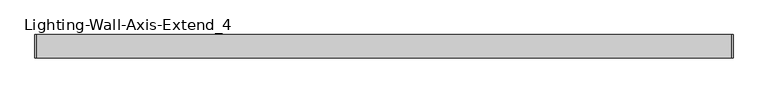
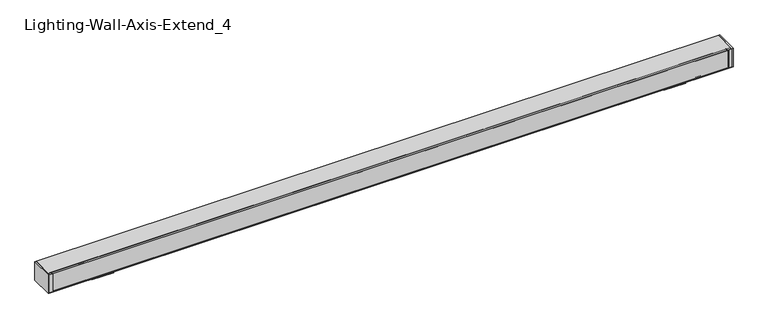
"""IFC4 building model written with IfcOpenShell, lengths in millimetres: light fixture geometry, Lighting-Wall-Axis-Extend_4 : EX4WD-900-80-35-SO-4."""

import ifcopenshell
import ifcopenshell.guid

model = None  # the IFC model being written
_history = None  # IfcOwnerHistory: only IFC2X3 demands one
_inside = {}  # id of a spatial element -> (the spatial element, [elements in it])
_under = {}  # id of a project, library or spatial element -> (it, [spatial elements below it])
_declared = {}  # id of a project -> (the project, [libraries it declares])
_typed = {}  # id of a type object -> (the type object, [elements of that type])
_made_of = {}  # id of a material, layer set ... -> (it, [elements and type objects made of it])


def new_model(schema):
    """Start an empty IFC model of exactly this schema.

    Asked for "IFC4X3", IfcOpenShell would pick the latest addendum, in which some entities
    have other attributes; the version numbers below select the first issue.
    IFC2X3 requires an IfcOwnerHistory on every rooted entity: one is made here for all.
    """
    global model, _history
    if schema == "IFC4X3":
        model = ifcopenshell.file(schema_version=(4, 3, 0, 0))
    else:
        model = ifcopenshell.file(schema=schema)
    _inside.clear()
    _under.clear()
    _declared.clear()
    _typed.clear()
    _made_of.clear()
    _history = None
    if model.schema == "IFC2X3":
        org = make("IfcOrganization", Name="unknown")
        user = make(
            "IfcPersonAndOrganization",
            ThePerson=make("IfcPerson", FamilyName="unknown"),
            TheOrganization=org,
        )
        app = make(
            "IfcApplication",
            ApplicationDeveloper=org,
            Version="unknown",
            ApplicationFullName="unknown",
            ApplicationIdentifier="unknown",
        )
        _history = make(
            "IfcOwnerHistory",
            OwningUser=user,
            OwningApplication=app,
            ChangeAction="ADDED",
            CreationDate=0,
        )
    return model


def make(cls, **values):
    """One entity of the class cls with the attributes given. An attribute that is None is left unset."""
    return model.create_entity(
        cls, **{name: value for name, value in values.items() if value is not None}
    )


def rooted(cls, **values):
    """An entity with a GlobalId (a new one), such as an element, a storey or a relation."""
    return make(cls, GlobalId=ifcopenshell.guid.new(), OwnerHistory=_history, **values)


def si_unit(unit_type, name, prefix=None):
    """IfcSIUnit, for example si_unit("LENGTHUNIT", "METRE", prefix="MILLI")."""
    return make("IfcSIUnit", UnitType=unit_type, Prefix=prefix, Name=name)


def assignment(units):
    """IfcUnitAssignment: the units of a project."""
    return None if units is None else make("IfcUnitAssignment", Units=units)


def point(xyz):
    """IfcCartesianPoint."""
    return None if xyz is None else make("IfcCartesianPoint", Coordinates=xyz)


def direction(xyz):
    """IfcDirection."""
    return None if xyz is None else make("IfcDirection", DirectionRatios=xyz)


def frame(location, z_axis=None, x_axis=None):
    """IfcAxis2Placement3D, a coordinate frame: its origin and axes. An axis left out is left unset."""
    return make(
        "IfcAxis2Placement3D",
        Location=point(location),
        Axis=direction(z_axis),
        RefDirection=direction(x_axis),
    )


def frame_2d(location, x_axis=None):
    """IfcAxis2Placement2D, a coordinate frame in the plane: its origin and x axis."""
    return make(
        "IfcAxis2Placement2D", Location=point(location), RefDirection=direction(x_axis)
    )


def origin():
    """The frame at (0, 0, 0) with its axes left unset."""
    return frame((0.0, 0.0, 0.0))


def place(relative_to, where):
    """IfcLocalPlacement: puts the frame where relative to a parent placement (None: the world)."""
    return make(
        "IfcLocalPlacement", PlacementRelTo=relative_to, RelativePlacement=where
    )


def context(
    kind, dimensions, precision=None, world=None, true_north=None, identifier=None
):
    """IfcGeometricRepresentationContext, for example the 3D "Model" context."""
    return make(
        "IfcGeometricRepresentationContext",
        ContextIdentifier=identifier,
        ContextType=kind,
        CoordinateSpaceDimension=dimensions,
        Precision=precision,
        WorldCoordinateSystem=world,
        TrueNorth=true_north,
    )


def project(units=None, contexts=None):
    """IfcProject with its units and contexts."""
    return rooted(
        "IfcProject",
        Name="project",
        RepresentationContexts=contexts,
        UnitsInContext=assignment(units),
    )


def spatial(cls, under=None, at=None, **own):
    """A site, building, storey or space (cls), placed at a placement, below another one or the project."""
    s = rooted(cls, ObjectPlacement=at, **own)
    if under is not None:
        _under.setdefault(under.id(), (under, []))[1].append(s)
    return s


def polyline(points):
    """IfcPolyline through the points."""
    return make("IfcPolyline", Points=[point(p) for p in points])


def circle_curve(where, radius):
    """IfcCircle in the frame where."""
    return make("IfcCircle", Position=where, Radius=radius)


def trimmed(basis, trim1, trim2, sense, master):
    """IfcTrimmedCurve: the piece of a basis curve between two trims."""
    return make(
        "IfcTrimmedCurve",
        BasisCurve=basis,
        Trim1=trim1,
        Trim2=trim2,
        SenseAgreement=sense,
        MasterRepresentation=master,
    )


def segment(curve, same_sense, transition):
    """IfcCompositeCurveSegment."""
    return make(
        "IfcCompositeCurveSegment",
        Transition=transition,
        SameSense=same_sense,
        ParentCurve=curve,
    )


def composite_curve(segments, self_intersect=None):
    """IfcCompositeCurve: segments joined end to end."""
    return make("IfcCompositeCurve", Segments=segments, SelfIntersect=self_intersect)


def outline(outer, holes=None, kind="AREA"):
    """IfcArbitraryClosedProfileDef: a profile drawn as a closed curve; with holes, ...WithVoids."""
    if holes is None:
        return make("IfcArbitraryClosedProfileDef", ProfileType=kind, OuterCurve=outer)
    return make(
        "IfcArbitraryProfileDefWithVoids",
        ProfileType=kind,
        OuterCurve=outer,
        InnerCurves=holes,
    )


def extrude(swept, where, along, depth):
    """IfcExtrudedAreaSolid: the profile swept, set in the frame where, extruded along a direction by depth."""
    return make(
        "IfcExtrudedAreaSolid",
        SweptArea=swept,
        Position=where,
        ExtrudedDirection=direction(along),
        Depth=depth,
    )


def shape(context_of_items, identifier, shape_type, items):
    """IfcShapeRepresentation: the items that make up one representation, for example the "Body"."""
    return make(
        "IfcShapeRepresentation",
        ContextOfItems=context_of_items,
        RepresentationIdentifier=identifier,
        RepresentationType=shape_type,
        Items=items,
    )


def source(mapping_origin, context_of_items, identifier, shape_type, items):
    """IfcRepresentationMap: a shape defined once, which mapped items show again and again."""
    return make(
        "IfcRepresentationMap",
        MappingOrigin=mapping_origin,
        MappedRepresentation=shape(context_of_items, identifier, shape_type, items),
    )


def transform(
    local_origin,
    x_axis=None,
    y_axis=None,
    z_axis=None,
    scale=None,
    scale2=None,
    scale3=None,
    uniform=True,
):
    """IfcCartesianTransformationOperator3D, or its non-uniform kind. x_axis, y_axis, z_axis: its Axis1, 2, 3."""
    if uniform:
        return make(
            "IfcCartesianTransformationOperator3D",
            Axis1=direction(x_axis),
            Axis2=direction(y_axis),
            LocalOrigin=point(local_origin),
            Scale=scale,
            Axis3=direction(z_axis),
        )
    return make(
        "IfcCartesianTransformationOperator3DnonUniform",
        Axis1=direction(x_axis),
        Axis2=direction(y_axis),
        LocalOrigin=point(local_origin),
        Scale=scale,
        Axis3=direction(z_axis),
        Scale2=scale2,
        Scale3=scale3,
    )


def mapped(mapping_source, mapping_target):
    """IfcMappedItem: shows the shape of a source again, moved by a transform."""
    return make(
        "IfcMappedItem", MappingSource=mapping_source, MappingTarget=mapping_target
    )


def made_of(thing, what):
    """Note that an element or type object is made of a material, layer set ...; save() writes the relation."""
    if what is not None:
        _made_of.setdefault(what.id(), (what, []))[1].append(thing)
    return thing


def element(
    cls,
    number,
    at=None,
    inside=None,
    cuts=None,
    type_object=None,
    material=None,
    context=None,
    identifier="Body",
    shape_type=None,
    held_by="IfcProductDefinitionShape",
    body=None,
    shapes=None,
    **own,
):
    """One element of the class cls, such as IfcWall. Its Tag is "e" and its number.

    at: its placement. inside: the storey or other place that contains it. cuts: it is an
    opening in that element (IfcRelVoidsElement). A single representation is given by context,
    identifier, shape_type and body (its items); several are given by shapes. held_by: the class
    of the entity that holds the representations. save() writes the other relations.
    """
    e = rooted(cls, Tag="e%d" % number, ObjectPlacement=at, **own)
    if body is not None:
        shapes = [shape(context, identifier, shape_type, body)]
    if shapes is not None:
        e.Representation = make(held_by, Representations=shapes)
    if inside is not None:
        _inside.setdefault(inside.id(), (inside, []))[1].append(e)
    if cuts is not None:
        rooted(
            "IfcRelVoidsElement", RelatingBuildingElement=cuts, RelatedOpeningElement=e
        )
    if type_object is not None:
        _typed.setdefault(type_object.id(), (type_object, []))[1].append(e)
    return made_of(e, material)


def aggregate(whole, parts):
    """IfcRelAggregates: a whole, such as a stair, and the parts it consists of."""
    return rooted("IfcRelAggregates", RelatingObject=whole, RelatedObjects=parts)


def save(model, path):
    """Write the relations noted so far, then the file.

    IfcRelAggregates (storeys below a building ...), IfcRelContainedInSpatialStructure (elements
    in a storey), IfcRelDefinesByType, IfcRelAssociatesMaterial and IfcRelDeclares: one each for
    every whole, place, type object, material and project.
    """
    for whole, parts in _under.values():
        aggregate(whole, parts)
    for where, things in _inside.values():
        rooted(
            "IfcRelContainedInSpatialStructure",
            RelatedElements=things,
            RelatingStructure=where,
        )
    for kind, things in _typed.values():
        rooted("IfcRelDefinesByType", RelatedObjects=things, RelatingType=kind)
    for what, things in _made_of.values():
        rooted("IfcRelAssociatesMaterial", RelatedObjects=things, RelatingMaterial=what)
    for by, libraries in _declared.values():
        rooted("IfcRelDeclares", RelatingContext=by, RelatedDefinitions=libraries)
    model.write(path)


def lighting_wall_axis_extend_4_54163fe5(model_context):
    return source(origin(), model_context, "Body", "SweptSolid", [
        extrude(outline(polyline([(42.5576665, 19.05), (99.3774665, 19.05), (99.3774665, 3.9878), (124.7775, 3.9878), (124.7775, 0.0), (17.157633, 0.0), (17.157633, 3.9878), (42.5576665, 3.9878), (42.5576665, 19.05)])), frame((1485.98636, 0.0, 0.0), z_axis=(1.0, 0.0, 0.0), x_axis=(0.0, 1.0, 0.0)), (0.0, 0.0, 1.0), 118.69928),
        extrude(outline(polyline([(42.5576665, 19.05), (99.3774665, 19.05), (99.3774665, 3.9878), (124.7775, 3.9878), (124.7775, 0.0), (17.157633, 0.0), (17.157633, 3.9878), (42.5576665, 3.9878), (42.5576665, 19.05)])), frame((-1604.68564, 0.0, 0.0), z_axis=(1.0, 0.0, 0.0), x_axis=(0.0, 1.0, 0.0)), (0.0, 0.0, 1.0), 118.69928),
        extrude(outline(polyline([(1825.4726, 1.1017139), (1825.4726, 2.57175), (1826.26635, 2.57175), (1826.26635, 1.778), (1833.118, 1.778), (1833.118, 4.5842019), (1843.786, 4.5842019), (1843.786, 0.0), (1826.3971437, 0.0), (1825.4726, 1.1017139)])), frame((0.0, 0.0, 21.082), z_axis=(0.0, 0.0, 1.0), x_axis=(1.0, 0.0, 0.0)), (0.0, 0.0, 1.0), 101.50602),
        extrude(outline(polyline([(1843.786, 0.0), (1843.786, 124.7775), (1850.136, 124.7775), (1850.136, 0.0), (1843.786, 0.0)])), frame((0.0, 0.0, 19.05), z_axis=(0.0, 0.0, 1.0), x_axis=(1.0, 0.0, 0.0)), (0.0, 0.0, 1.0), 105.57002),
        extrude(outline(polyline([(-1825.4726, 1.1017139), (-1826.3971437, 0.0), (-1843.786, 0.0), (-1843.786, 4.5842019), (-1833.118, 4.5842019), (-1833.118, 1.778), (-1826.26635, 1.778), (-1826.26635, 2.57175), (-1825.4726, 2.57175), (-1825.4726, 1.1017139)])), frame((0.0, 0.0, 21.082), z_axis=(0.0, 0.0, 1.0), x_axis=(1.0, 0.0, 0.0)), (0.0, 0.0, 1.0), 101.50602),
        extrude(outline(polyline([(-1843.786, 124.7775), (-1843.786, 0.0), (-1850.136, 0.0), (-1850.136, 124.7775), (-1843.786, 124.7775)])), frame((0.0, 0.0, 19.05), z_axis=(0.0, 0.0, 1.0), x_axis=(1.0, 0.0, 0.0)), (0.0, 0.0, 1.0), 105.57002),
        extrude(outline(composite_curve([segment(polyline([(4.8895009, 116.7887462), (4.8895009, 26.8812738), (11.3521263, 26.5425819)]), True, "CONTINUOUS"), segment(trimmed(circle_curve(frame_2d((14.351, 23.7998)), 4.064), [point((11.3521263, 26.5425819))], [point((17.9580097, 25.6721186))], False, "CARTESIAN"), True, "CONTINUOUS"), segment(trimmed(circle_curve(frame_2d((17.1691543, 28.904656)), 3.3274001), [point((17.9580097, 25.6721186))], [point((19.4557425, 26.4874044))], True, "CARTESIAN"), True, "CONTINUOUS"), segment(trimmed(circle_curve(frame_2d((12.4214292, 33.9236823)), 10.2362001), [point((19.4557425, 26.4874044))], [point((20.6551445, 27.8420934))], True, "CARTESIAN"), True, "CONTINUOUS"), segment(trimmed(circle_curve(frame_2d((21.3191538, 27.3516427)), 0.8255), [point((20.6551445, 27.8420934))], [point((21.9831631, 26.861192))], False, "CARTESIAN"), True, "CONTINUOUS"), segment(trimmed(circle_curve(frame_2d((12.4214283, 33.9236831)), 11.8872013), [point((21.9831631, 26.861192))], [point((20.5903092, 25.2880048))], False, "CARTESIAN"), True, "CONTINUOUS"), segment(trimmed(circle_curve(frame_2d((17.1691543, 28.904656)), 4.9784001), [point((20.5903092, 25.2880048))], [point((16.75974, 23.9431193))], False, "CARTESIAN"), True, "CONTINUOUS"), segment(trimmed(circle_curve(frame_2d((14.351, 23.7998)), 2.413), [point((16.75974, 23.9431193))], [point((12.7205342, 25.5786059))], True, "CARTESIAN"), True, "CONTINUOUS"), segment(trimmed(circle_curve(frame_2d((11.0042544, 27.4510331)), 2.54), [point((12.7205342, 25.5786059))], [point((10.8713211, 24.9145141))], False, "CARTESIAN"), True, "CONTINUOUS"), segment(polyline([(10.8713211, 24.9145141), (4.8895009, 25.228008), (4.8895009, 22.225), (2.9845, 22.225), (2.9845, 121.44502), (4.8895009, 121.44502), (4.8895009, 118.442012), (10.8713211, 118.7555059)]), True, "CONTINUOUS"), segment(trimmed(circle_curve(frame_2d((11.0042544, 116.2189869)), 2.54), [point((10.8713211, 118.7555059))], [point((12.7205342, 118.0914141))], False, "CARTESIAN"), True, "CONTINUOUS"), segment(trimmed(circle_curve(frame_2d((14.351, 119.87022)), 2.413), [point((12.7205342, 118.0914141))], [point((16.75974, 119.7269007))], True, "CARTESIAN"), True, "CONTINUOUS"), segment(trimmed(circle_curve(frame_2d((17.1691543, 114.765364)), 4.9784001), [point((16.75974, 119.7269007))], [point((20.5903092, 118.3820152))], False, "CARTESIAN"), True, "CONTINUOUS"), segment(trimmed(circle_curve(frame_2d((12.4214283, 109.7463369)), 11.8872013), [point((20.5903092, 118.3820152))], [point((21.9831631, 116.808828))], False, "CARTESIAN"), True, "CONTINUOUS"), segment(trimmed(circle_curve(frame_2d((21.3191538, 116.3183773)), 0.8255), [point((21.9831631, 116.808828))], [point((20.6551445, 115.8279266))], False, "CARTESIAN"), True, "CONTINUOUS"), segment(trimmed(circle_curve(frame_2d((12.4214292, 109.7463377)), 10.2362001), [point((20.6551445, 115.8279266))], [point((19.4557425, 117.1826156))], True, "CARTESIAN"), True, "CONTINUOUS"), segment(trimmed(circle_curve(frame_2d((17.1691543, 114.765364)), 3.3274001), [point((19.4557425, 117.1826156))], [point((17.9580097, 117.9979014))], True, "CARTESIAN"), True, "CONTINUOUS"), segment(trimmed(circle_curve(frame_2d((14.351, 119.87022)), 4.064), [point((17.9580097, 117.9979014))], [point((11.3521263, 117.1274381))], False, "CARTESIAN"), True, "CONTINUOUS"), segment(polyline([(11.3521263, 117.1274381), (4.8895009, 116.7887462)]), True, "CONTINUOUS")], self_intersect=False)), frame((-1828.8, 0.0, 0.0), z_axis=(1.0, 0.0, 0.0), x_axis=(0.0, 1.0, 0.0)), (0.0, 0.0, 1.0), 3657.6),
        extrude(outline(composite_curve([segment(polyline([(14.9098, 122.58802), (14.9098, 120.7485997)]), True, "CONTINUOUS"), segment(trimmed(circle_curve(frame_2d((14.9098, 119.2422497)), 1.5063501), [point((14.9098, 120.7485997))], [point((16.2143374, 118.4890746))], False, "CARTESIAN"), True, "CONTINUOUS"), segment(trimmed(circle_curve(frame_2d((14.1511921, 119.6802321)), 2.382315), [point((16.2143374, 118.4890746))], [point((13.9591318, 117.3056716))], False, "CARTESIAN"), True, "CONTINUOUS"), segment(polyline([(13.9591318, 117.3056716), (11.1252, 120.68302), (12.8778, 120.68302), (12.8778, 122.58802), (6.35, 122.58802), (6.35, 120.68302), (7.874, 120.68302), (7.7874748, 119.03202), (5.08, 119.03202), (5.08, 122.58802), (0.0, 122.58802), (0.0, 124.62002), (124.7775, 124.62002), (124.7775, 19.05), (0.0, 19.05), (0.0, 21.082), (5.08, 21.082), (5.08, 24.638), (7.7874748, 24.638), (7.874, 22.987), (6.35, 22.987), (6.35, 21.082), (12.8778, 21.082), (12.8778, 22.987), (11.1252, 22.987), (13.9591318, 26.3643484)]), True, "CONTINUOUS"), segment(trimmed(circle_curve(frame_2d((14.1511921, 23.9897879)), 2.382315), [point((13.9591318, 26.3643484))], [point((16.2143374, 25.1809454))], False, "CARTESIAN"), True, "CONTINUOUS"), segment(trimmed(circle_curve(frame_2d((14.9098, 24.4277703)), 1.5063501), [point((16.2143374, 25.1809454))], [point((14.9098, 22.9214203))], False, "CARTESIAN"), True, "CONTINUOUS"), segment(polyline([(14.9098, 22.9214203), (14.9098, 21.082), (122.7455, 21.082), (122.7455, 122.58802), (14.9098, 122.58802)]), True, "CONTINUOUS")], self_intersect=False)), frame((-1843.786, 0.0, 0.0), z_axis=(1.0, 0.0, 0.0), x_axis=(0.0, 1.0, 0.0)), (0.0, 0.0, 1.0), 3687.572),
    ])


if __name__ == "__main__":
    model = new_model("IFC4")
    model_context = context("Model", 3, world=origin())
    ifc_project = project(units=[si_unit("LENGTHUNIT", "METRE", prefix="MILLI")], contexts=[model_context])
    site = spatial("IfcSite", under=ifc_project)
    building = spatial("IfcBuilding", under=site)
    placement = place(None, origin())
    lighting_wall_axis_extend_4_shape = lighting_wall_axis_extend_4_54163fe5(model_context)
    element("IfcLightFixture", 1, ObjectType="Lighting-Wall-Axis-Extend_4 : EX4WD-900-80-35-SO-4", at=placement, inside=building, context=model_context, shape_type="MappedRepresentation", body=[
        mapped(lighting_wall_axis_extend_4_shape, transform((0.0, 0.0, 0.0), x_axis=(1.0, 0.0, 0.0), y_axis=(0.0, 1.0, 0.0), z_axis=(0.0, 0.0, 1.0))),
    ])
    save(model, "model.ifc")
